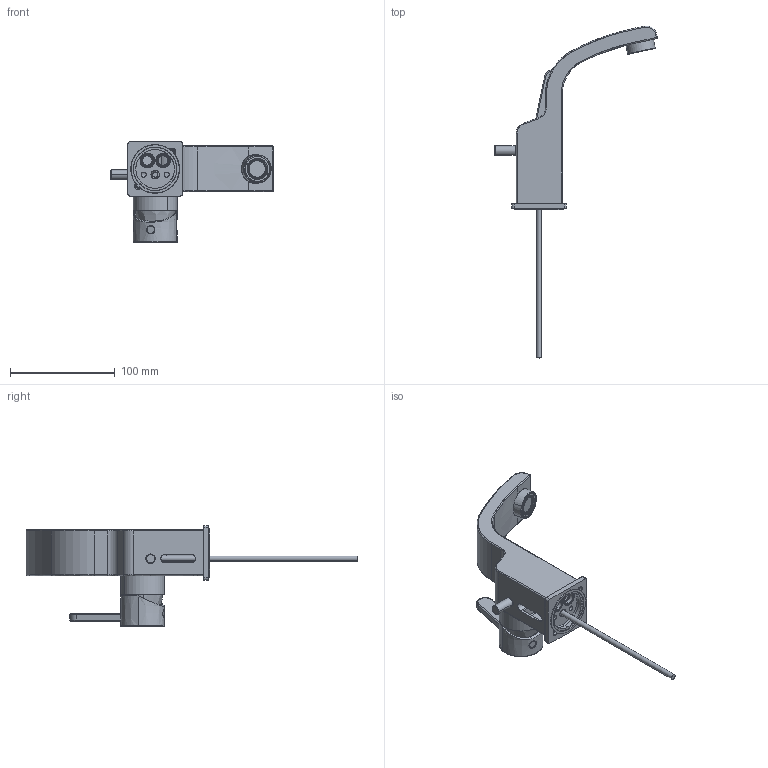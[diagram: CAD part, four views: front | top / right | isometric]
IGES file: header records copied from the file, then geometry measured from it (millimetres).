
Start section: SolidWorks IGES file using analytic representation for surfaces
Global section: file name: C:\Users\J1827277\Desktop\疏擘\FH 8260-D56.IGS,1; native system: 5HSolidWorks 2013; preprocessor: SolidWorks 2013; author: J1827277; date: 130403.131217; units: millimetre
Bounding box: 155.43 x 317.44 x 96.2 mm (x, y, z)
Surface area: 67319.4 mm2 (no closed solid volume)
Topology: 0 solids, 0 shells, 217 faces, 3884 edges, 3882 vertices
Faces by surface type: revolution 118, bspline 99
